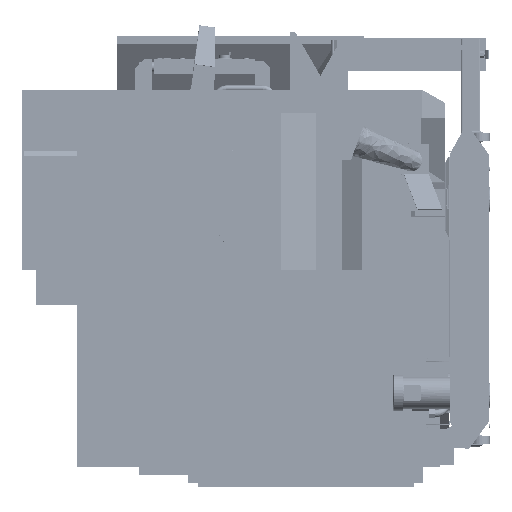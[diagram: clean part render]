
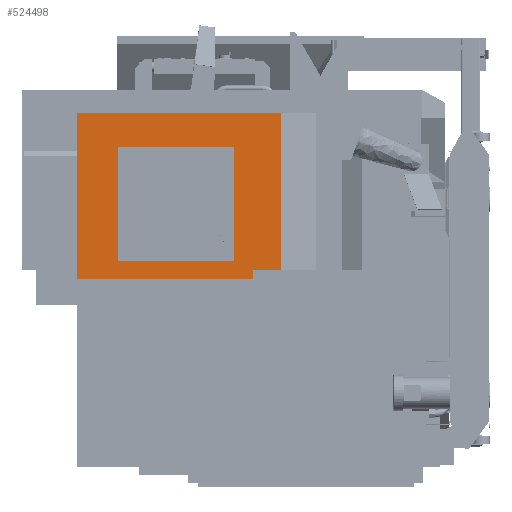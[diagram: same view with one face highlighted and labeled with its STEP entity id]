
A CAD part, left-side view. The second image highlights one B-rep face of the part: STEP entity #524498.
In plain terms, the highlighted planar face has unit normal (-1, 0, 0).
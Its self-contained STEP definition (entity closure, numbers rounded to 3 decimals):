
#11691 = CARTESIAN_POINT ( 'NONE',  ( -43.863, 71.842, 27.097 ) ) ;
#28304 = VECTOR ( 'NONE', #177868, 39.37 ) ;
#33529 = CARTESIAN_POINT ( 'NONE',  ( -43.863, 38.579, 1.892 ) ) ;
#51984 = VECTOR ( 'NONE', #319533, 39.37 ) ;
#71916 = DIRECTION ( 'NONE',  ( 0., 0., 1. ) ) ;
#78259 = VERTEX_POINT ( 'NONE', #11691 ) ;
#80103 = DIRECTION ( 'NONE',  ( 0., 0., 1. ) ) ;
#98990 = DIRECTION ( 'NONE',  ( 0., 1., 0. ) ) ;
#105322 = ORIENTED_EDGE ( 'NONE', *, *, #413093, .F. ) ;
#111772 = CARTESIAN_POINT ( 'NONE',  ( -43.863, 44.286, -0.017 ) ) ;
#113623 = CARTESIAN_POINT ( 'NONE',  ( -43.863, 44.286, 1.892 ) ) ;
#121847 = PLANE ( 'NONE',  #504692 ) ;
#134564 = CARTESIAN_POINT ( 'NONE',  ( -43.863, 80.259, 33.959 ) ) ;
#144759 = LINE ( 'NONE', #599891, #307742 ) ;
#151204 = EDGE_LOOP ( 'NONE', ( #223880, #383765, #238301, #378113, #474583, #342043 ) ) ;
#151610 = VERTEX_POINT ( 'NONE', #268004 ) ;
#163534 = LINE ( 'NONE', #625174, #51984 ) ;
#164294 = DIRECTION ( 'NONE',  ( 0., 1., 0. ) ) ;
#177868 = DIRECTION ( 'NONE',  ( 0., 0., -1. ) ) ;
#186187 = EDGE_CURVE ( 'NONE', #394609, #649489, #313821, .T. ) ;
#198670 = CARTESIAN_POINT ( 'NONE',  ( -43.863, 48.126, 27.097 ) ) ;
#207961 = EDGE_CURVE ( 'NONE', #288352, #534531, #144759, .T. ) ;
#217572 = VECTOR ( 'NONE', #80103, 39.37 ) ;
#223880 = ORIENTED_EDGE ( 'NONE', *, *, #478573, .T. ) ;
#238301 = ORIENTED_EDGE ( 'NONE', *, *, #239983, .T. ) ;
#239983 = EDGE_CURVE ( 'NONE', #534531, #380106, #474510, .T. ) ;
#256420 = VECTOR ( 'NONE', #481104, 39.37 ) ;
#268004 = CARTESIAN_POINT ( 'NONE',  ( -43.863, 48.126, 27.097 ) ) ;
#277530 = DIRECTION ( 'NONE',  ( 0., -1., 0. ) ) ;
#278433 = CARTESIAN_POINT ( 'NONE',  ( -43.863, 44.286, -0.017 ) ) ;
#288352 = VERTEX_POINT ( 'NONE', #297605 ) ;
#297605 = CARTESIAN_POINT ( 'NONE',  ( -43.863, 80.259, -0.017 ) ) ;
#301838 = ORIENTED_EDGE ( 'NONE', *, *, #630608, .F. ) ;
#307742 = VECTOR ( 'NONE', #347349, 39.37 ) ;
#313821 = LINE ( 'NONE', #466626, #636189 ) ;
#319533 = DIRECTION ( 'NONE',  ( 0., 0., 1. ) ) ;
#324463 = DIRECTION ( 'NONE',  ( -1., 0., 0. ) ) ;
#327672 = CARTESIAN_POINT ( 'NONE',  ( -43.863, 71.842, 3.847 ) ) ;
#342043 = ORIENTED_EDGE ( 'NONE', *, *, #186187, .T. ) ;
#347349 = DIRECTION ( 'NONE',  ( 0., -1., 0. ) ) ;
#367824 = FACE_OUTER_BOUND ( 'NONE', #151204, .T. ) ;
#369487 = LINE ( 'NONE', #525497, #404829 ) ;
#369939 = EDGE_CURVE ( 'NONE', #385117, #394609, #638305, .T. ) ;
#370297 = ORIENTED_EDGE ( 'NONE', *, *, #379997, .F. ) ;
#378113 = ORIENTED_EDGE ( 'NONE', *, *, #530393, .T. ) ;
#379997 = EDGE_CURVE ( 'NONE', #407058, #151610, #163534, .T. ) ;
#380106 = VERTEX_POINT ( 'NONE', #113623 ) ;
#383765 = ORIENTED_EDGE ( 'NONE', *, *, #207961, .T. ) ;
#384100 = LINE ( 'NONE', #327672, #494368 ) ;
#385117 = VERTEX_POINT ( 'NONE', #455181 ) ;
#394609 = VERTEX_POINT ( 'NONE', #539925 ) ;
#404829 = VECTOR ( 'NONE', #412798, 39.37 ) ;
#407058 = VERTEX_POINT ( 'NONE', #457499 ) ;
#412798 = DIRECTION ( 'NONE',  ( 0., 0., -1. ) ) ;
#413093 = EDGE_CURVE ( 'NONE', #151610, #78259, #604001, .T. ) ;
#422971 = VECTOR ( 'NONE', #277530, 39.37 ) ;
#440836 = VERTEX_POINT ( 'NONE', #630683 ) ;
#455181 = CARTESIAN_POINT ( 'NONE',  ( -43.863, 38.579, 1.892 ) ) ;
#457499 = CARTESIAN_POINT ( 'NONE',  ( -43.863, 48.126, 3.847 ) ) ;
#466626 = CARTESIAN_POINT ( 'NONE',  ( -43.863, 38.579, 33.959 ) ) ;
#474510 = LINE ( 'NONE', #278433, #256420 ) ;
#474583 = ORIENTED_EDGE ( 'NONE', *, *, #369939, .T. ) ;
#478573 = EDGE_CURVE ( 'NONE', #649489, #288352, #589704, .T. ) ;
#481104 = DIRECTION ( 'NONE',  ( 0., 0., 1. ) ) ;
#494368 = VECTOR ( 'NONE', #643181, 39.37 ) ;
#504692 = AXIS2_PLACEMENT_3D ( 'NONE', #570439, #324463, #71916 ) ;
#524498 = ADVANCED_FACE ( 'NONE', ( #367824, #577010 ), #121847, .T. ) ;
#525497 = CARTESIAN_POINT ( 'NONE',  ( -43.863, 71.842, 3.847 ) ) ;
#530393 = EDGE_CURVE ( 'NONE', #380106, #385117, #533304, .T. ) ;
#533304 = LINE ( 'NONE', #592992, #422971 ) ;
#534531 = VERTEX_POINT ( 'NONE', #111772 ) ;
#539740 = ORIENTED_EDGE ( 'NONE', *, *, #652079, .F. ) ;
#539925 = CARTESIAN_POINT ( 'NONE',  ( -43.863, 38.579, 33.959 ) ) ;
#570439 = CARTESIAN_POINT ( 'NONE',  ( -43.863, 0., 0. ) ) ;
#577010 = FACE_BOUND ( 'NONE', #602621, .T. ) ;
#589704 = LINE ( 'NONE', #134564, #28304 ) ;
#592992 = CARTESIAN_POINT ( 'NONE',  ( -43.863, 44.286, 1.892 ) ) ;
#599891 = CARTESIAN_POINT ( 'NONE',  ( -43.863, 80.259, -0.017 ) ) ;
#600033 = CARTESIAN_POINT ( 'NONE',  ( -43.863, 80.259, 33.959 ) ) ;
#602621 = EDGE_LOOP ( 'NONE', ( #539740, #105322, #370297, #301838 ) ) ;
#604001 = LINE ( 'NONE', #198670, #629696 ) ;
#625174 = CARTESIAN_POINT ( 'NONE',  ( -43.863, 48.126, 3.847 ) ) ;
#629696 = VECTOR ( 'NONE', #98990, 39.37 ) ;
#630608 = EDGE_CURVE ( 'NONE', #440836, #407058, #384100, .T. ) ;
#630683 = CARTESIAN_POINT ( 'NONE',  ( -43.863, 71.842, 3.847 ) ) ;
#636189 = VECTOR ( 'NONE', #164294, 39.37 ) ;
#638305 = LINE ( 'NONE', #33529, #217572 ) ;
#643181 = DIRECTION ( 'NONE',  ( 0., -1., 0. ) ) ;
#649489 = VERTEX_POINT ( 'NONE', #600033 ) ;
#652079 = EDGE_CURVE ( 'NONE', #78259, #440836, #369487, .T. ) ;
